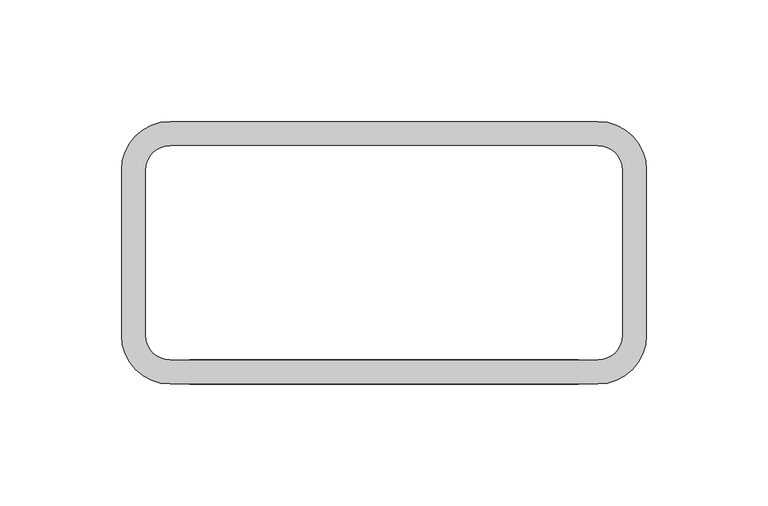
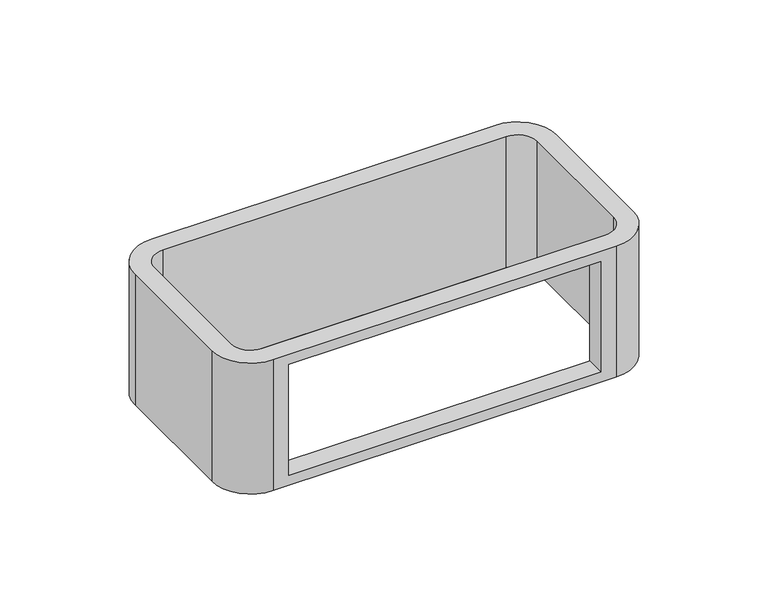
"""IFC4 building model written with IfcOpenShell, lengths in millimetres: proxy geometry, Вертикальное расширение напольной башенки BUS : Вертикальное расширение напольной башенки BUS."""

import ifcopenshell
import ifcopenshell.guid

model = None  # the IFC model being written
_history = None  # IfcOwnerHistory: only IFC2X3 demands one
_inside = {}  # id of a spatial element -> (the spatial element, [elements in it])
_under = {}  # id of a project, library or spatial element -> (it, [spatial elements below it])
_declared = {}  # id of a project -> (the project, [libraries it declares])
_typed = {}  # id of a type object -> (the type object, [elements of that type])
_made_of = {}  # id of a material, layer set ... -> (it, [elements and type objects made of it])


def new_model(schema):
    """Start an empty IFC model of exactly this schema.

    Asked for "IFC4X3", IfcOpenShell would pick the latest addendum, in which some entities
    have other attributes; the version numbers below select the first issue.
    IFC2X3 requires an IfcOwnerHistory on every rooted entity: one is made here for all.
    """
    global model, _history
    if schema == "IFC4X3":
        model = ifcopenshell.file(schema_version=(4, 3, 0, 0))
    else:
        model = ifcopenshell.file(schema=schema)
    _inside.clear()
    _under.clear()
    _declared.clear()
    _typed.clear()
    _made_of.clear()
    _history = None
    if model.schema == "IFC2X3":
        org = make("IfcOrganization", Name="unknown")
        user = make(
            "IfcPersonAndOrganization",
            ThePerson=make("IfcPerson", FamilyName="unknown"),
            TheOrganization=org,
        )
        app = make(
            "IfcApplication",
            ApplicationDeveloper=org,
            Version="unknown",
            ApplicationFullName="unknown",
            ApplicationIdentifier="unknown",
        )
        _history = make(
            "IfcOwnerHistory",
            OwningUser=user,
            OwningApplication=app,
            ChangeAction="ADDED",
            CreationDate=0,
        )
    return model


def make(cls, **values):
    """One entity of the class cls with the attributes given. An attribute that is None is left unset."""
    return model.create_entity(
        cls, **{name: value for name, value in values.items() if value is not None}
    )


def rooted(cls, **values):
    """An entity with a GlobalId (a new one), such as an element, a storey or a relation."""
    return make(cls, GlobalId=ifcopenshell.guid.new(), OwnerHistory=_history, **values)


def si_unit(unit_type, name, prefix=None):
    """IfcSIUnit, for example si_unit("LENGTHUNIT", "METRE", prefix="MILLI")."""
    return make("IfcSIUnit", UnitType=unit_type, Prefix=prefix, Name=name)


def assignment(units):
    """IfcUnitAssignment: the units of a project."""
    return None if units is None else make("IfcUnitAssignment", Units=units)


def point(xyz):
    """IfcCartesianPoint."""
    return None if xyz is None else make("IfcCartesianPoint", Coordinates=xyz)


def direction(xyz):
    """IfcDirection."""
    return None if xyz is None else make("IfcDirection", DirectionRatios=xyz)


def frame(location, z_axis=None, x_axis=None):
    """IfcAxis2Placement3D, a coordinate frame: its origin and axes. An axis left out is left unset."""
    return make(
        "IfcAxis2Placement3D",
        Location=point(location),
        Axis=direction(z_axis),
        RefDirection=direction(x_axis),
    )


def origin():
    """The frame at (0, 0, 0) with its axes left unset."""
    return frame((0.0, 0.0, 0.0))


def place(relative_to, where):
    """IfcLocalPlacement: puts the frame where relative to a parent placement (None: the world)."""
    return make(
        "IfcLocalPlacement", PlacementRelTo=relative_to, RelativePlacement=where
    )


def context(
    kind, dimensions, precision=None, world=None, true_north=None, identifier=None
):
    """IfcGeometricRepresentationContext, for example the 3D "Model" context."""
    return make(
        "IfcGeometricRepresentationContext",
        ContextIdentifier=identifier,
        ContextType=kind,
        CoordinateSpaceDimension=dimensions,
        Precision=precision,
        WorldCoordinateSystem=world,
        TrueNorth=true_north,
    )


def project(units=None, contexts=None):
    """IfcProject with its units and contexts."""
    return rooted(
        "IfcProject",
        Name="project",
        RepresentationContexts=contexts,
        UnitsInContext=assignment(units),
    )


def spatial(cls, under=None, at=None, **own):
    """A site, building, storey or space (cls), placed at a placement, below another one or the project."""
    s = rooted(cls, ObjectPlacement=at, **own)
    if under is not None:
        _under.setdefault(under.id(), (under, []))[1].append(s)
    return s


def polyline(points):
    """IfcPolyline through the points."""
    return make("IfcPolyline", Points=[point(p) for p in points])


def circle_curve(where, radius):
    """IfcCircle in the frame where."""
    return make("IfcCircle", Position=where, Radius=radius)


def shape(context_of_items, identifier, shape_type, items):
    """IfcShapeRepresentation: the items that make up one representation, for example the "Body"."""
    return make(
        "IfcShapeRepresentation",
        ContextOfItems=context_of_items,
        RepresentationIdentifier=identifier,
        RepresentationType=shape_type,
        Items=items,
    )


def source(mapping_origin, context_of_items, identifier, shape_type, items):
    """IfcRepresentationMap: a shape defined once, which mapped items show again and again."""
    return make(
        "IfcRepresentationMap",
        MappingOrigin=mapping_origin,
        MappedRepresentation=shape(context_of_items, identifier, shape_type, items),
    )


def transform(
    local_origin,
    x_axis=None,
    y_axis=None,
    z_axis=None,
    scale=None,
    scale2=None,
    scale3=None,
    uniform=True,
):
    """IfcCartesianTransformationOperator3D, or its non-uniform kind. x_axis, y_axis, z_axis: its Axis1, 2, 3."""
    if uniform:
        return make(
            "IfcCartesianTransformationOperator3D",
            Axis1=direction(x_axis),
            Axis2=direction(y_axis),
            LocalOrigin=point(local_origin),
            Scale=scale,
            Axis3=direction(z_axis),
        )
    return make(
        "IfcCartesianTransformationOperator3DnonUniform",
        Axis1=direction(x_axis),
        Axis2=direction(y_axis),
        LocalOrigin=point(local_origin),
        Scale=scale,
        Axis3=direction(z_axis),
        Scale2=scale2,
        Scale3=scale3,
    )


def mapped(mapping_source, mapping_target):
    """IfcMappedItem: shows the shape of a source again, moved by a transform."""
    return make(
        "IfcMappedItem", MappingSource=mapping_source, MappingTarget=mapping_target
    )


def made_of(thing, what):
    """Note that an element or type object is made of a material, layer set ...; save() writes the relation."""
    if what is not None:
        _made_of.setdefault(what.id(), (what, []))[1].append(thing)
    return thing


def element(
    cls,
    number,
    at=None,
    inside=None,
    cuts=None,
    type_object=None,
    material=None,
    context=None,
    identifier="Body",
    shape_type=None,
    held_by="IfcProductDefinitionShape",
    body=None,
    shapes=None,
    **own,
):
    """One element of the class cls, such as IfcWall. Its Tag is "e" and its number.

    at: its placement. inside: the storey or other place that contains it. cuts: it is an
    opening in that element (IfcRelVoidsElement). A single representation is given by context,
    identifier, shape_type and body (its items); several are given by shapes. held_by: the class
    of the entity that holds the representations. save() writes the other relations.
    """
    e = rooted(cls, Tag="e%d" % number, ObjectPlacement=at, **own)
    if body is not None:
        shapes = [shape(context, identifier, shape_type, body)]
    if shapes is not None:
        e.Representation = make(held_by, Representations=shapes)
    if inside is not None:
        _inside.setdefault(inside.id(), (inside, []))[1].append(e)
    if cuts is not None:
        rooted(
            "IfcRelVoidsElement", RelatingBuildingElement=cuts, RelatedOpeningElement=e
        )
    if type_object is not None:
        _typed.setdefault(type_object.id(), (type_object, []))[1].append(e)
    return made_of(e, material)


def aggregate(whole, parts):
    """IfcRelAggregates: a whole, such as a stair, and the parts it consists of."""
    return rooted("IfcRelAggregates", RelatingObject=whole, RelatedObjects=parts)


def save(model, path):
    """Write the relations noted so far, then the file.

    IfcRelAggregates (storeys below a building ...), IfcRelContainedInSpatialStructure (elements
    in a storey), IfcRelDefinesByType, IfcRelAssociatesMaterial and IfcRelDeclares: one each for
    every whole, place, type object, material and project.
    """
    for whole, parts in _under.values():
        aggregate(whole, parts)
    for where, things in _inside.values():
        rooted(
            "IfcRelContainedInSpatialStructure",
            RelatedElements=things,
            RelatingStructure=where,
        )
    for kind, things in _typed.values():
        rooted("IfcRelDefinesByType", RelatedObjects=things, RelatingType=kind)
    for what, things in _made_of.values():
        rooted("IfcRelAssociatesMaterial", RelatedObjects=things, RelatingMaterial=what)
    for by, libraries in _declared.values():
        rooted("IfcRelDeclares", RelatingContext=by, RelatedDefinitions=libraries)
    model.write(path)


def plane_surface(at):
    """IfcPlane: the flat surface through the origin of the frame at, square to its z axis."""
    return make("IfcPlane", Position=at)


def cylinder_surface(at, radius):
    """IfcCylindricalSurface: all points at the distance radius from the z axis of the frame at."""
    return make("IfcCylindricalSurface", Position=at, Radius=radius)


def revolved_surface(curve, axis_point, axis_direction):
    """IfcSurfaceOfRevolution: the curve turned about the line through axis_point along axis_direction."""
    return make(
        "IfcSurfaceOfRevolution",
        SweptCurve=make("IfcArbitraryOpenProfileDef", ProfileType="CURVE", Curve=curve),
        AxisPosition=make("IfcAxis1Placement", Location=point(axis_point), Axis=direction(axis_direction)),
    )


def advanced_brep(points, edges, surfaces, faces):
    """IfcAdvancedBrep: a solid bounded by faces that lie on surfaces and meet in shared edges.

    An edge is (start, end): straight between two places in points (the first is 0);
    or (start, end, curve); or (start, end, curve, False) where it runs against its curve.
    A face is (place in surfaces, loops), or (place, loops, False) where it looks against
    its surface's normal. A loop lists edges by number (the first is 1), with a minus sign
    where the edge is run from its end to its start. The first loop is the outer one.
    """
    corners = [point(p) for p in points]
    vertices = [make("IfcVertexPoint", VertexGeometry=c) for c in corners]
    made = []
    for start, end, *more in edges:
        made.append(
            make(
                "IfcEdgeCurve",
                EdgeStart=vertices[start],
                EdgeEnd=vertices[end],
                EdgeGeometry=more[0] if more else make("IfcPolyline", Points=[corners[start], corners[end]]),
                SameSense=more[1] if len(more) > 1 else True,
            )
        )
    hull = []
    for where, loops, *sense in faces:
        bounds = []
        for j, loop in enumerate(loops):
            ring = [make("IfcOrientedEdge", EdgeElement=made[abs(k) - 1], Orientation=k > 0) for k in loop]
            bounds.append(
                make(
                    "IfcFaceOuterBound" if j == 0 else "IfcFaceBound",
                    Bound=make("IfcEdgeLoop", EdgeList=ring),
                    Orientation=True,
                )
            )
        hull.append(make("IfcAdvancedFace", Bounds=bounds, FaceSurface=surfaces[where], SameSense=sense[0] if sense else True))
    return make("IfcAdvancedBrep", Outer=make("IfcClosedShell", CfsFaces=hull))


def electrical_fixtures_f8ef05b3(model_context):
    return source(origin(), model_context, "Body", "AdvancedBrep", [
        advanced_brep(
        [(88.0, 54.0, 71.0), (-88.0, 54.0, 71.0), (-108.0, 34.0, 71.0), (-108.0, -34.0, 71.0), (-88.0, -54.0, 71.0), (88.0, -54.0, 71.0), (108.0, -34.0, 71.0), (108.0, 34.0, 71.0), (88.0, 44.0, 71.0), (98.0, 34.0, 71.0), (98.0, -34.0, 71.0), (88.0, -44.0, 71.0), (-88.0, -44.0, 71.0), (-98.0, -34.0, 71.0), (-98.0, 34.0, 71.0), (-88.0, 44.0, 71.0), (88.0, 54.0, 0.0), (108.0, 34.0, 0.0), (108.0, -34.0, 0.0), (88.0, -54.0, 0.0), (-88.0, -54.0, 0.0), (-108.0, -34.0, 0.0), (-108.0, 34.0, 0.0), (-88.0, 54.0, 0.0), (88.0, 44.0, 0.0), (-88.0, 44.0, 0.0), (-98.0, 34.0, 0.0), (-98.0, -34.0, 0.0), (-88.0, -44.0, 0.0), (88.0, -44.0, 0.0), (98.0, -34.0, 0.0), (98.0, 34.0, 0.0), (-80.0, -54.0, 65.5), (80.0, -54.0, 65.5), (80.0, -54.0, 5.5), (-80.0, -54.0, 5.5), (80.0, -44.0, 65.5), (-80.0, -44.0, 65.5), (-80.0, -44.0, 5.5), (80.0, -44.0, 5.5)],
        [
            (0, 1),
            (1, 2, circle_curve(frame((-88.0, 34.0, 71.0), z_axis=(0.0, 0.0, 1.0), x_axis=(1.0, 0.0, 0.0)), 20.0)),
            (2, 3),
            (3, 4, circle_curve(frame((-88.0, -34.0, 71.0), z_axis=(0.0, 0.0, 1.0), x_axis=(1.0, 0.0, 0.0)), 20.0)),
            (4, 5),
            (5, 6, circle_curve(frame((88.0, -34.0, 71.0), z_axis=(0.0, 0.0, 1.0), x_axis=(1.0, 0.0, 0.0)), 20.0)),
            (6, 7),
            (7, 0, circle_curve(frame((88.0, 34.0, 71.0), z_axis=(0.0, 0.0, 1.0), x_axis=(1.0, 0.0, 0.0)), 20.0)),
            (8, 9, circle_curve(frame((88.0, 34.0, 71.0), z_axis=(0.0, 0.0, -1.0), x_axis=(1.0, 0.0, 0.0)), 10.0)),
            (9, 10),
            (10, 11, circle_curve(frame((88.0, -34.0, 71.0), z_axis=(0.0, 0.0, -1.0), x_axis=(1.0, 0.0, 0.0)), 10.0)),
            (11, 12),
            (12, 13, circle_curve(frame((-88.0, -34.0, 71.0), z_axis=(0.0, 0.0, -1.0), x_axis=(1.0, 0.0, 0.0)), 10.0)),
            (13, 14),
            (14, 15, circle_curve(frame((-88.0, 34.0, 71.0), z_axis=(0.0, 0.0, -1.0), x_axis=(1.0, 0.0, 0.0)), 10.0)),
            (15, 8),
            (16, 17, circle_curve(frame((88.0, 34.0, 0.0), z_axis=(0.0, 0.0, -1.0), x_axis=(1.0, 0.0, 0.0)), 20.0)),
            (17, 18),
            (18, 19, circle_curve(frame((88.0, -34.0, 0.0), z_axis=(0.0, 0.0, -1.0), x_axis=(1.0, 0.0, 0.0)), 20.0)),
            (19, 20),
            (20, 21, circle_curve(frame((-88.0, -34.0, 0.0), z_axis=(0.0, 0.0, -1.0), x_axis=(1.0, 0.0, 0.0)), 20.0)),
            (21, 22),
            (22, 23, circle_curve(frame((-88.0, 34.0, 0.0), z_axis=(0.0, 0.0, -1.0), x_axis=(1.0, 0.0, 0.0)), 20.0)),
            (23, 16),
            (24, 25),
            (25, 26, circle_curve(frame((-88.0, 34.0, 0.0), z_axis=(0.0, 0.0, 1.0), x_axis=(1.0, 0.0, 0.0)), 10.0)),
            (26, 27),
            (27, 28, circle_curve(frame((-88.0, -34.0, 0.0), z_axis=(0.0, 0.0, 1.0), x_axis=(1.0, 0.0, 0.0)), 10.0)),
            (28, 29),
            (29, 30, circle_curve(frame((88.0, -34.0, 0.0), z_axis=(0.0, 0.0, 1.0), x_axis=(1.0, 0.0, 0.0)), 10.0)),
            (30, 31),
            (31, 24, circle_curve(frame((88.0, 34.0, 0.0), z_axis=(0.0, 0.0, 1.0), x_axis=(1.0, 0.0, 0.0)), 10.0)),
            (0, 16),
            (23, 1),
            (22, 2),
            (21, 3),
            (20, 4),
            (19, 5),
            (32, 33),
            (33, 34),
            (34, 35),
            (35, 32),
            (18, 6),
            (17, 7),
            (8, 24),
            (31, 9),
            (30, 10),
            (29, 11),
            (28, 12),
            (36, 37),
            (37, 38),
            (38, 39),
            (39, 36),
            (27, 13),
            (26, 14),
            (25, 15),
            (32, 37),
            (36, 33),
            (35, 38),
            (34, 39),
        ],
        [
            plane_surface(frame((-108.0, 54.0, 71.0), z_axis=(0.0, 0.0, 1.0), x_axis=(-1.0, 0.0, 0.0))),
            plane_surface(frame((-108.0, 54.0, 0.0), z_axis=(0.0, 0.0, -1.0), x_axis=(1.0, 0.0, 0.0))),
            plane_surface(frame((88.0, 54.0, 71.0), z_axis=(0.0, 1.0, 0.0), x_axis=(0.0, 0.0, -1.0))),
            cylinder_surface(frame((-88.0, 34.0, 0.0), z_axis=(0.0, 0.0, 1.0), x_axis=(1.0, 0.0, 0.0)), 20.0),
            plane_surface(frame((-108.0, 34.0, 71.0), z_axis=(-1.0, 0.0, 0.0), x_axis=(0.0, 0.0, -1.0))),
            cylinder_surface(frame((-88.0, -34.0, 0.0), z_axis=(0.0, 0.0, 1.0), x_axis=(1.0, 0.0, 0.0)), 20.0),
            plane_surface(frame((-88.0, -54.0, 71.0), z_axis=(0.0, -1.0, 0.0), x_axis=(0.0, 0.0, -1.0))),
            cylinder_surface(frame((88.0, -34.0, 0.0), z_axis=(0.0, 0.0, 1.0), x_axis=(1.0, 0.0, 0.0)), 20.0),
            plane_surface(frame((108.0, -34.0, 71.0), z_axis=(1.0, 0.0, 0.0), x_axis=(0.0, 0.0, -1.0))),
            cylinder_surface(frame((88.0, 34.0, 0.0), z_axis=(0.0, 0.0, 1.0), x_axis=(1.0, 0.0, 0.0)), 20.0),
            revolved_surface(polyline([(98.0, 34.0, 0.0), (98.0, 34.0, 71.0)]), (88.0, 34.0, 0.0), (0.0, 0.0, -1.0)),
            plane_surface(frame((98.0, 34.0, 71.0), z_axis=(-1.0, 0.0, 0.0), x_axis=(0.0, 0.0, -1.0))),
            revolved_surface(polyline([(98.0, -34.0, 0.0), (98.0, -34.0, 71.0)]), (88.0, -34.0, 0.0), (0.0, 0.0, -1.0)),
            plane_surface(frame((88.0, -44.0, 71.0), z_axis=(0.0, 1.0, 0.0), x_axis=(0.0, 0.0, -1.0))),
            revolved_surface(polyline([(-78.0, -34.0, 0.0), (-78.0, -34.0, 71.0)]), (-88.0, -34.0, 0.0), (0.0, 0.0, -1.0)),
            plane_surface(frame((-98.0, -34.0, 71.0), z_axis=(1.0, 0.0, 0.0), x_axis=(0.0, 0.0, -1.0))),
            revolved_surface(polyline([(-78.0, 34.0, 0.0), (-78.0, 34.0, 71.0)]), (-88.0, 34.0, 0.0), (0.0, 0.0, -1.0)),
            plane_surface(frame((-88.0, 44.0, 71.0), z_axis=(0.0, -1.0, 0.0), x_axis=(0.0, 0.0, -1.0))),
            plane_surface(frame((80.0, -54.0, 65.5), z_axis=(0.0, 0.0, -1.0), x_axis=(0.0, 1.0, 0.0))),
            plane_surface(frame((-80.0, -54.0, 65.5), z_axis=(1.0, 0.0, 0.0), x_axis=(0.0, 1.0, 0.0))),
            plane_surface(frame((-80.0, -54.0, 5.5), z_axis=(0.0, 0.0, 1.0), x_axis=(0.0, 1.0, 0.0))),
            plane_surface(frame((80.0, -54.0, 5.5), z_axis=(-1.0, 0.0, 0.0), x_axis=(0.0, 1.0, 0.0))),
        ],
        [
            (0, [[1, 2, 3, 4, 5, 6, 7, 8], [9, 10, 11, 12, 13, 14, 15, 16]]),
            (1, [[17, 18, 19, 20, 21, 22, 23, 24], [25, 26, 27, 28, 29, 30, 31, 32]]),
            (2, [[-1, 33, -24, 34]]),
            (3, [[-2, -34, -23, 35]]),
            (4, [[-3, -35, -22, 36]]),
            (5, [[-4, -36, -21, 37]]),
            (6, [[-5, -37, -20, 38], [39, 40, 41, 42]]),
            (7, [[-6, -38, -19, 43]]),
            (8, [[-7, -43, -18, 44]]),
            (9, [[-8, -44, -17, -33]]),
            (10, [[-9, 45, -32, 46]]),
            (11, [[-10, -46, -31, 47]]),
            (12, [[-11, -47, -30, 48]]),
            (13, [[-12, -48, -29, 49], [50, 51, 52, 53]]),
            (14, [[-13, -49, -28, 54]]),
            (15, [[-14, -54, -27, 55]]),
            (16, [[-15, -55, -26, 56]]),
            (17, [[-16, -56, -25, -45]]),
            (18, [[57, -50, 58, -39]]),
            (19, [[-57, -42, 59, -51]]),
            (20, [[-59, -41, 60, -52]]),
            (21, [[-58, -53, -60, -40]]),
        ],
    ),
    ])


if __name__ == "__main__":
    model = new_model("IFC4")
    model_context = context("Model", 3, world=origin())
    ifc_project = project(units=[si_unit("LENGTHUNIT", "METRE", prefix="MILLI")], contexts=[model_context])
    site = spatial("IfcSite", under=ifc_project)
    building = spatial("IfcBuilding", under=site)
    placement = place(None, origin())
    electrical_fixtures_shape = electrical_fixtures_f8ef05b3(model_context)
    element("IfcBuildingElementProxy", 1, Name="Вертикальное расширение напольной башенки BUS : Вертикальное расширение напольной башенки BUS", ObjectType="Вертикальное расширение напольной башенки BUS : Вертикальное расширение напольной башенки BUS", at=placement, inside=building, context=model_context, shape_type="MappedRepresentation", body=[
        mapped(electrical_fixtures_shape, transform((0.0, 0.0, 0.0), x_axis=(1.0, 0.0, 0.0), y_axis=(0.0, 1.0, 0.0), z_axis=(0.0, 0.0, 1.0))),
    ])
    save(model, "model.ifc")
